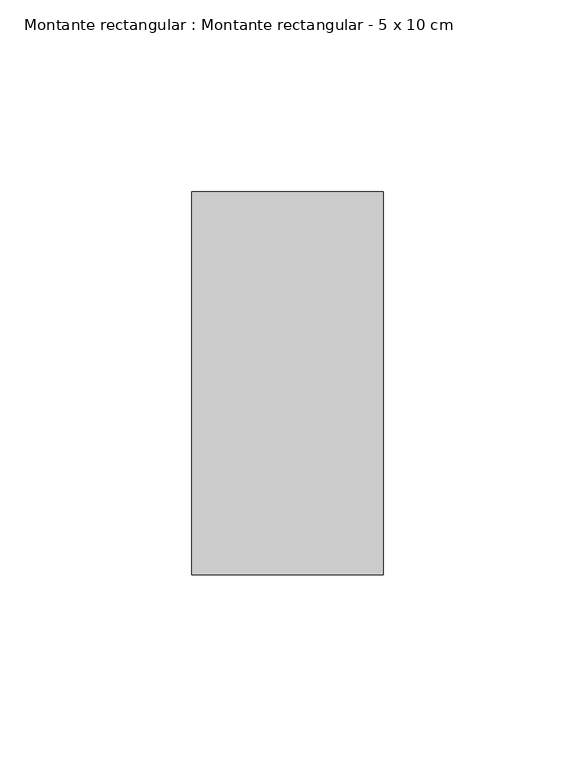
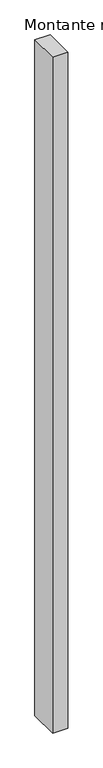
"""IFC4 building model written with IfcOpenShell, lengths in millimetres: member geometry, Montante rectangular : Montante rectangular - 5 x 10 cm."""

import ifcopenshell
import ifcopenshell.guid

model = None  # the IFC model being written
_history = None  # IfcOwnerHistory: only IFC2X3 demands one
_inside = {}  # id of a spatial element -> (the spatial element, [elements in it])
_under = {}  # id of a project, library or spatial element -> (it, [spatial elements below it])
_declared = {}  # id of a project -> (the project, [libraries it declares])
_typed = {}  # id of a type object -> (the type object, [elements of that type])
_made_of = {}  # id of a material, layer set ... -> (it, [elements and type objects made of it])


def new_model(schema):
    """Start an empty IFC model of exactly this schema.

    Asked for "IFC4X3", IfcOpenShell would pick the latest addendum, in which some entities
    have other attributes; the version numbers below select the first issue.
    IFC2X3 requires an IfcOwnerHistory on every rooted entity: one is made here for all.
    """
    global model, _history
    if schema == "IFC4X3":
        model = ifcopenshell.file(schema_version=(4, 3, 0, 0))
    else:
        model = ifcopenshell.file(schema=schema)
    _inside.clear()
    _under.clear()
    _declared.clear()
    _typed.clear()
    _made_of.clear()
    _history = None
    if model.schema == "IFC2X3":
        org = make("IfcOrganization", Name="unknown")
        user = make(
            "IfcPersonAndOrganization",
            ThePerson=make("IfcPerson", FamilyName="unknown"),
            TheOrganization=org,
        )
        app = make(
            "IfcApplication",
            ApplicationDeveloper=org,
            Version="unknown",
            ApplicationFullName="unknown",
            ApplicationIdentifier="unknown",
        )
        _history = make(
            "IfcOwnerHistory",
            OwningUser=user,
            OwningApplication=app,
            ChangeAction="ADDED",
            CreationDate=0,
        )
    return model


def make(cls, **values):
    """One entity of the class cls with the attributes given. An attribute that is None is left unset."""
    return model.create_entity(
        cls, **{name: value for name, value in values.items() if value is not None}
    )


def rooted(cls, **values):
    """An entity with a GlobalId (a new one), such as an element, a storey or a relation."""
    return make(cls, GlobalId=ifcopenshell.guid.new(), OwnerHistory=_history, **values)


def si_unit(unit_type, name, prefix=None):
    """IfcSIUnit, for example si_unit("LENGTHUNIT", "METRE", prefix="MILLI")."""
    return make("IfcSIUnit", UnitType=unit_type, Prefix=prefix, Name=name)


def assignment(units):
    """IfcUnitAssignment: the units of a project."""
    return None if units is None else make("IfcUnitAssignment", Units=units)


def point(xyz):
    """IfcCartesianPoint."""
    return None if xyz is None else make("IfcCartesianPoint", Coordinates=xyz)


def direction(xyz):
    """IfcDirection."""
    return None if xyz is None else make("IfcDirection", DirectionRatios=xyz)


def frame(location, z_axis=None, x_axis=None):
    """IfcAxis2Placement3D, a coordinate frame: its origin and axes. An axis left out is left unset."""
    return make(
        "IfcAxis2Placement3D",
        Location=point(location),
        Axis=direction(z_axis),
        RefDirection=direction(x_axis),
    )


def origin():
    """The frame at (0, 0, 0) with its axes left unset."""
    return frame((0.0, 0.0, 0.0))


def place(relative_to, where):
    """IfcLocalPlacement: puts the frame where relative to a parent placement (None: the world)."""
    return make(
        "IfcLocalPlacement", PlacementRelTo=relative_to, RelativePlacement=where
    )


def context(
    kind, dimensions, precision=None, world=None, true_north=None, identifier=None
):
    """IfcGeometricRepresentationContext, for example the 3D "Model" context."""
    return make(
        "IfcGeometricRepresentationContext",
        ContextIdentifier=identifier,
        ContextType=kind,
        CoordinateSpaceDimension=dimensions,
        Precision=precision,
        WorldCoordinateSystem=world,
        TrueNorth=true_north,
    )


def project(units=None, contexts=None):
    """IfcProject with its units and contexts."""
    return rooted(
        "IfcProject",
        Name="project",
        RepresentationContexts=contexts,
        UnitsInContext=assignment(units),
    )


def spatial(cls, under=None, at=None, **own):
    """A site, building, storey or space (cls), placed at a placement, below another one or the project."""
    s = rooted(cls, ObjectPlacement=at, **own)
    if under is not None:
        _under.setdefault(under.id(), (under, []))[1].append(s)
    return s


def polyline(points):
    """IfcPolyline through the points."""
    return make("IfcPolyline", Points=[point(p) for p in points])


def outline(outer, holes=None, kind="AREA"):
    """IfcArbitraryClosedProfileDef: a profile drawn as a closed curve; with holes, ...WithVoids."""
    if holes is None:
        return make("IfcArbitraryClosedProfileDef", ProfileType=kind, OuterCurve=outer)
    return make(
        "IfcArbitraryProfileDefWithVoids",
        ProfileType=kind,
        OuterCurve=outer,
        InnerCurves=holes,
    )


def extrude(swept, where, along, depth):
    """IfcExtrudedAreaSolid: the profile swept, set in the frame where, extruded along a direction by depth."""
    return make(
        "IfcExtrudedAreaSolid",
        SweptArea=swept,
        Position=where,
        ExtrudedDirection=direction(along),
        Depth=depth,
    )


def shape(context_of_items, identifier, shape_type, items):
    """IfcShapeRepresentation: the items that make up one representation, for example the "Body"."""
    return make(
        "IfcShapeRepresentation",
        ContextOfItems=context_of_items,
        RepresentationIdentifier=identifier,
        RepresentationType=shape_type,
        Items=items,
    )


def source(mapping_origin, context_of_items, identifier, shape_type, items):
    """IfcRepresentationMap: a shape defined once, which mapped items show again and again."""
    return make(
        "IfcRepresentationMap",
        MappingOrigin=mapping_origin,
        MappedRepresentation=shape(context_of_items, identifier, shape_type, items),
    )


def transform(
    local_origin,
    x_axis=None,
    y_axis=None,
    z_axis=None,
    scale=None,
    scale2=None,
    scale3=None,
    uniform=True,
):
    """IfcCartesianTransformationOperator3D, or its non-uniform kind. x_axis, y_axis, z_axis: its Axis1, 2, 3."""
    if uniform:
        return make(
            "IfcCartesianTransformationOperator3D",
            Axis1=direction(x_axis),
            Axis2=direction(y_axis),
            LocalOrigin=point(local_origin),
            Scale=scale,
            Axis3=direction(z_axis),
        )
    return make(
        "IfcCartesianTransformationOperator3DnonUniform",
        Axis1=direction(x_axis),
        Axis2=direction(y_axis),
        LocalOrigin=point(local_origin),
        Scale=scale,
        Axis3=direction(z_axis),
        Scale2=scale2,
        Scale3=scale3,
    )


def mapped(mapping_source, mapping_target):
    """IfcMappedItem: shows the shape of a source again, moved by a transform."""
    return make(
        "IfcMappedItem", MappingSource=mapping_source, MappingTarget=mapping_target
    )


def made_of(thing, what):
    """Note that an element or type object is made of a material, layer set ...; save() writes the relation."""
    if what is not None:
        _made_of.setdefault(what.id(), (what, []))[1].append(thing)
    return thing


def element(
    cls,
    number,
    at=None,
    inside=None,
    cuts=None,
    type_object=None,
    material=None,
    context=None,
    identifier="Body",
    shape_type=None,
    held_by="IfcProductDefinitionShape",
    body=None,
    shapes=None,
    **own,
):
    """One element of the class cls, such as IfcWall. Its Tag is "e" and its number.

    at: its placement. inside: the storey or other place that contains it. cuts: it is an
    opening in that element (IfcRelVoidsElement). A single representation is given by context,
    identifier, shape_type and body (its items); several are given by shapes. held_by: the class
    of the entity that holds the representations. save() writes the other relations.
    """
    e = rooted(cls, Tag="e%d" % number, ObjectPlacement=at, **own)
    if body is not None:
        shapes = [shape(context, identifier, shape_type, body)]
    if shapes is not None:
        e.Representation = make(held_by, Representations=shapes)
    if inside is not None:
        _inside.setdefault(inside.id(), (inside, []))[1].append(e)
    if cuts is not None:
        rooted(
            "IfcRelVoidsElement", RelatingBuildingElement=cuts, RelatedOpeningElement=e
        )
    if type_object is not None:
        _typed.setdefault(type_object.id(), (type_object, []))[1].append(e)
    return made_of(e, material)


def aggregate(whole, parts):
    """IfcRelAggregates: a whole, such as a stair, and the parts it consists of."""
    return rooted("IfcRelAggregates", RelatingObject=whole, RelatedObjects=parts)


def save(model, path):
    """Write the relations noted so far, then the file.

    IfcRelAggregates (storeys below a building ...), IfcRelContainedInSpatialStructure (elements
    in a storey), IfcRelDefinesByType, IfcRelAssociatesMaterial and IfcRelDeclares: one each for
    every whole, place, type object, material and project.
    """
    for whole, parts in _under.values():
        aggregate(whole, parts)
    for where, things in _inside.values():
        rooted(
            "IfcRelContainedInSpatialStructure",
            RelatedElements=things,
            RelatingStructure=where,
        )
    for kind, things in _typed.values():
        rooted("IfcRelDefinesByType", RelatedObjects=things, RelatingType=kind)
    for what, things in _made_of.values():
        rooted("IfcRelAssociatesMaterial", RelatedObjects=things, RelatingMaterial=what)
    for by, libraries in _declared.values():
        rooted("IfcRelDeclares", RelatingContext=by, RelatedDefinitions=libraries)
    model.write(path)


def montante_rectangular_montante_rectangular_5_x_10_cm_9e02cc37(model_context):
    return source(origin(), model_context, "Body", "SweptSolid", [
        extrude(outline(polyline([(-50.0, 50.0), (0.0, 50.0), (0.0, -50.0), (-50.0, -50.0), (-50.0, 50.0)])), frame((0.0, 0.0, -2339.0268354), z_axis=(0.0, 0.0, 1.0), x_axis=(1.0, 0.0, 0.0)), (0.0, 0.0, 1.0), 2339.0268354),
    ])


if __name__ == "__main__":
    model = new_model("IFC4")
    model_context = context("Model", 3, world=origin())
    ifc_project = project(units=[si_unit("LENGTHUNIT", "METRE", prefix="MILLI")], contexts=[model_context])
    site = spatial("IfcSite", under=ifc_project)
    building = spatial("IfcBuilding", under=site)
    placement = place(None, origin())
    montante_rectangular_montante_rectangular_5_x_10_cm_shape = montante_rectangular_montante_rectangular_5_x_10_cm_9e02cc37(model_context)
    element("IfcMember", 1, ObjectType="Montante rectangular : Montante rectangular - 5 x 10 cm", at=placement, inside=building, context=model_context, shape_type="MappedRepresentation", body=[
        mapped(montante_rectangular_montante_rectangular_5_x_10_cm_shape, transform((0.0, 0.0, 0.0), x_axis=(1.0, 0.0, 0.0), y_axis=(0.0, 1.0, 0.0), z_axis=(0.0, 0.0, 1.0))),
    ])
    save(model, "model.ifc")
